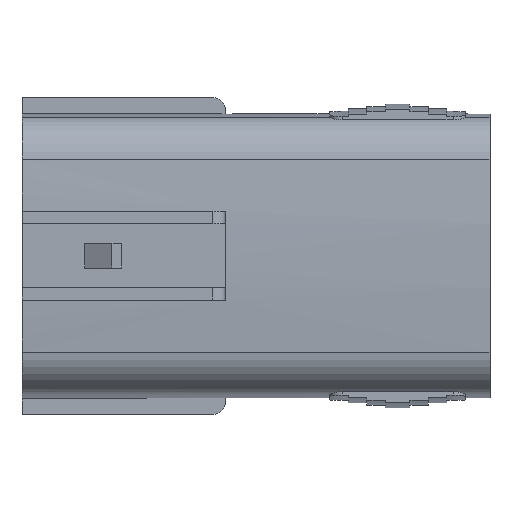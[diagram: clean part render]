
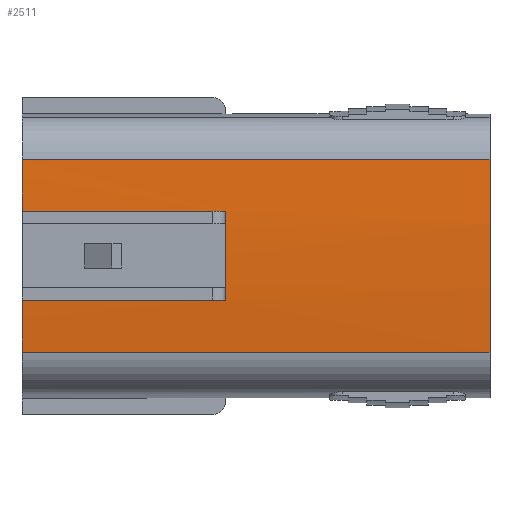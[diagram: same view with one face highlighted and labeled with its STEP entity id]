
A CAD part, top view. The second image highlights one B-rep face of the part: STEP entity #2511.
In plain terms, the highlighted cylindrical face has radius 95.7 mm (diameter 191.4 mm), a partial arc.
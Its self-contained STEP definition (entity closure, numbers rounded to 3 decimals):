
#321=AXIS2_PLACEMENT_3D('Circle Axis2P3D',#319,#320,$) ;
#368=AXIS2_PLACEMENT_3D('Circle Axis2P3D',#366,#367,$) ;
#2462=AXIS2_PLACEMENT_3D('Cylinder Axis2P3D',#2459,#2460,#2461) ;
#2473=AXIS2_PLACEMENT_3D('Circle Axis2P3D',#2471,#2472,$) ;
#2485=AXIS2_PLACEMENT_3D('Circle Axis2P3D',#2483,#2484,$) ;
#2490=AXIS2_PLACEMENT_3D('Circle Axis2P3D',#2488,#2489,$) ;
#176=CARTESIAN_POINT('Vertex',(16.5,0.,9.1)) ;
#316=CARTESIAN_POINT('Vertex',(0.,-7.836,8.779)) ;
#319=CARTESIAN_POINT('Axis2P3D Location',(0.,0.,-86.6)) ;
#323=CARTESIAN_POINT('Vertex',(0.,-3.6,9.032)) ;
#363=CARTESIAN_POINT('Vertex',(0.,3.6,9.032)) ;
#366=CARTESIAN_POINT('Axis2P3D Location',(0.,0.,-86.6)) ;
#370=CARTESIAN_POINT('Vertex',(0.,7.836,8.779)) ;
#2429=CARTESIAN_POINT('Line Origine',(19.,7.836,8.779)) ;
#2433=CARTESIAN_POINT('Vertex',(38.,7.836,8.779)) ;
#2459=CARTESIAN_POINT('Axis2P3D Location',(14.2,0.,-86.6)) ;
#2464=CARTESIAN_POINT('Line Origine',(14.2,-7.836,8.779)) ;
#2468=CARTESIAN_POINT('Vertex',(38.,-7.836,8.779)) ;
#2471=CARTESIAN_POINT('Axis2P3D Location',(38.,0.,-86.6)) ;
#2476=CARTESIAN_POINT('Line Origine',(14.2,3.6,9.032)) ;
#2480=CARTESIAN_POINT('Vertex',(16.5,3.6,9.032)) ;
#2483=CARTESIAN_POINT('Axis2P3D Location',(16.5,0.,-86.6)) ;
#2488=CARTESIAN_POINT('Axis2P3D Location',(16.5,0.,-86.6)) ;
#2492=CARTESIAN_POINT('Vertex',(16.5,-3.6,9.032)) ;
#2495=CARTESIAN_POINT('Line Origine',(14.2,-3.6,9.032)) ;
#320=DIRECTION('Axis2P3D Direction',(-1.,0.,-0.)) ;
#367=DIRECTION('Axis2P3D Direction',(-1.,0.,-0.)) ;
#2430=DIRECTION('Vector Direction',(1.,0.,0.)) ;
#2460=DIRECTION('Axis2P3D Direction',(-1.,0.,0.)) ;
#2461=DIRECTION('Axis2P3D XDirection',(0.,-0.112,0.994)) ;
#2465=DIRECTION('Vector Direction',(-1.,0.,0.)) ;
#2472=DIRECTION('Axis2P3D Direction',(-1.,0.,0.)) ;
#2477=DIRECTION('Vector Direction',(-1.,0.,0.)) ;
#2484=DIRECTION('Axis2P3D Direction',(-1.,0.,0.)) ;
#2489=DIRECTION('Axis2P3D Direction',(-1.,0.,0.)) ;
#2496=DIRECTION('Vector Direction',(-1.,0.,0.)) ;
#2431=VECTOR('Line Direction',#2430,1.) ;
#2466=VECTOR('Line Direction',#2465,1.) ;
#2478=VECTOR('Line Direction',#2477,1.) ;
#2497=VECTOR('Line Direction',#2496,1.) ;
#2501=ORIENTED_EDGE('',*,*,#325,.F.) ;
#2502=ORIENTED_EDGE('',*,*,#2470,.F.) ;
#2503=ORIENTED_EDGE('',*,*,#2475,.F.) ;
#2504=ORIENTED_EDGE('',*,*,#2435,.T.) ;
#2505=ORIENTED_EDGE('',*,*,#372,.F.) ;
#2506=ORIENTED_EDGE('',*,*,#2482,.T.) ;
#2507=ORIENTED_EDGE('',*,*,#2487,.T.) ;
#2508=ORIENTED_EDGE('',*,*,#2494,.T.) ;
#2509=ORIENTED_EDGE('',*,*,#2499,.F.) ;
#2511=ADVANCED_FACE('\X2\FF8EFF9EFF83FF9EFF68FF70\X0\.9',(#2510),#2463,.T.) ;
#322=CIRCLE('generated circle',#321,95.7) ;
#369=CIRCLE('generated circle',#368,95.7) ;
#2474=CIRCLE('generated circle',#2473,95.7) ;
#2486=CIRCLE('generated circle',#2485,95.7) ;
#2491=CIRCLE('generated circle',#2490,95.7) ;
#2463=CYLINDRICAL_SURFACE('generated cylinder',#2462,95.7) ;
#325=EDGE_CURVE('',#317,#324,#322,.T.) ;
#372=EDGE_CURVE('',#364,#371,#369,.T.) ;
#2435=EDGE_CURVE('',#2434,#371,#2432,.F.) ;
#2470=EDGE_CURVE('',#2469,#317,#2467,.T.) ;
#2475=EDGE_CURVE('',#2434,#2469,#2474,.F.) ;
#2482=EDGE_CURVE('',#364,#2481,#2479,.F.) ;
#2487=EDGE_CURVE('',#2481,#177,#2486,.F.) ;
#2494=EDGE_CURVE('',#177,#2493,#2491,.F.) ;
#2499=EDGE_CURVE('',#324,#2493,#2498,.F.) ;
#2500=EDGE_LOOP('',(#2501,#2502,#2503,#2504,#2505,#2506,#2507,#2508,#2509)) ;
#2510=FACE_OUTER_BOUND('',#2500,.T.) ;
#2432=LINE('Line',#2429,#2431) ;
#2467=LINE('Line',#2464,#2466) ;
#2479=LINE('Line',#2476,#2478) ;
#2498=LINE('Line',#2495,#2497) ;
#177=VERTEX_POINT('',#176) ;
#317=VERTEX_POINT('',#316) ;
#324=VERTEX_POINT('',#323) ;
#364=VERTEX_POINT('',#363) ;
#371=VERTEX_POINT('',#370) ;
#2434=VERTEX_POINT('',#2433) ;
#2469=VERTEX_POINT('',#2468) ;
#2481=VERTEX_POINT('',#2480) ;
#2493=VERTEX_POINT('',#2492) ;
